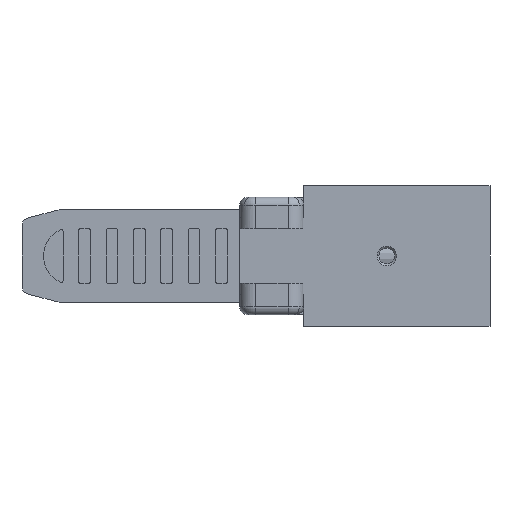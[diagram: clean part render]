
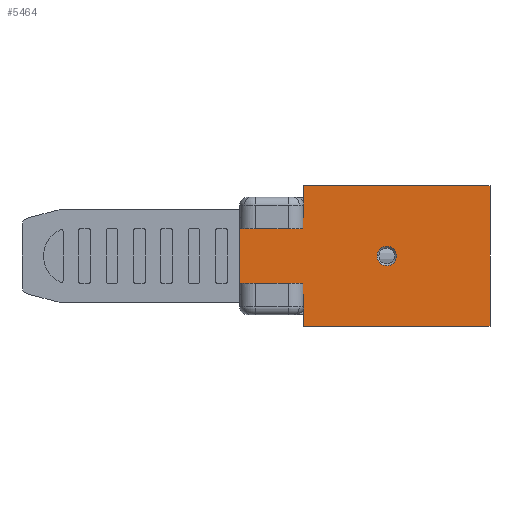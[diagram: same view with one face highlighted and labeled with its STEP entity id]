
A CAD part, front view. The second image highlights one B-rep face of the part: STEP entity #5464.
In plain terms, the highlighted planar face has unit normal (0, -1, 0).
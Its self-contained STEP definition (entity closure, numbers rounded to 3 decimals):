
#78 = CARTESIAN_POINT ( 'NONE',  ( 22.5, -5., -9. ) ) ;
#499 = CARTESIAN_POINT ( 'NONE',  ( -9.5, -5., 9. ) ) ;
#653 = CARTESIAN_POINT ( 'NONE',  ( -1.3, -5., 9. ) ) ;
#754 = VERTEX_POINT ( 'NONE', #6939 ) ;
#793 = ORIENTED_EDGE ( 'NONE', *, *, #6692, .T. ) ;
#824 = EDGE_CURVE ( 'NONE', #5874, #1615, #13155, .T. ) ;
#845 = LINE ( 'NONE', #7675, #11790 ) ;
#1077 = CARTESIAN_POINT ( 'NONE',  ( 22.5, -5., 9. ) ) ;
#1084 = ORIENTED_EDGE ( 'NONE', *, *, #824, .T. ) ;
#1093 = CARTESIAN_POINT ( 'NONE',  ( 22.5, -5., 9. ) ) ;
#1103 = VECTOR ( 'NONE', #10646, 1000. ) ;
#1263 = ORIENTED_EDGE ( 'NONE', *, *, #10964, .F. ) ;
#1266 = CARTESIAN_POINT ( 'NONE',  ( 9.3, -5., 0. ) ) ;
#1278 = VERTEX_POINT ( 'NONE', #11753 ) ;
#1595 = VECTOR ( 'NONE', #10138, 1000. ) ;
#1615 = VERTEX_POINT ( 'NONE', #78 ) ;
#1715 = DIRECTION ( 'NONE',  ( 0., 0., -1. ) ) ;
#2220 = FACE_OUTER_BOUND ( 'NONE', #6037, .T. ) ;
#2321 = VECTOR ( 'NONE', #1715, 1000. ) ;
#2352 = DIRECTION ( 'NONE',  ( 0., 0., -1. ) ) ;
#2527 = CARTESIAN_POINT ( 'NONE',  ( 9.3, -5., 0. ) ) ;
#2637 = ORIENTED_EDGE ( 'NONE', *, *, #10293, .F. ) ;
#2917 = VERTEX_POINT ( 'NONE', #10139 ) ;
#2988 = EDGE_LOOP ( 'NONE', ( #7819, #2637 ) ) ;
#3341 = ORIENTED_EDGE ( 'NONE', *, *, #7930, .T. ) ;
#3372 = ORIENTED_EDGE ( 'NONE', *, *, #11298, .F. ) ;
#3392 = AXIS2_PLACEMENT_3D ( 'NONE', #1266, #8676, #2352 ) ;
#3602 = DIRECTION ( 'NONE',  ( 0., 0., -1. ) ) ;
#3878 = DIRECTION ( 'NONE',  ( 1., 0., 0. ) ) ;
#4280 = LINE ( 'NONE', #1093, #1103 ) ;
#4565 = DIRECTION ( 'NONE',  ( -1., 0., 0. ) ) ;
#4841 = CARTESIAN_POINT ( 'NONE',  ( -1.3, -5., -4.95 ) ) ;
#5098 = VECTOR ( 'NONE', #13653, 1000. ) ;
#5267 = VECTOR ( 'NONE', #5959, 1000. ) ;
#5464 = ADVANCED_FACE ( 'NONE', ( #10340, #2220 ), #7747, .F. ) ;
#5639 = EDGE_CURVE ( 'NONE', #12448, #2917, #5833, .T. ) ;
#5673 = DIRECTION ( 'NONE',  ( 0., 1., 0. ) ) ;
#5833 = LINE ( 'NONE', #499, #11454 ) ;
#5874 = VERTEX_POINT ( 'NONE', #11403 ) ;
#5959 = DIRECTION ( 'NONE',  ( 0., 0., -1. ) ) ;
#6037 = EDGE_LOOP ( 'NONE', ( #10348, #3341, #1084, #1263, #3372, #793, #11915, #8321 ) ) ;
#6083 = CARTESIAN_POINT ( 'NONE',  ( -9.5, -5., 4.95 ) ) ;
#6179 = EDGE_CURVE ( 'NONE', #13196, #2917, #845, .T. ) ;
#6692 = EDGE_CURVE ( 'NONE', #754, #10032, #8099, .T. ) ;
#6873 = EDGE_CURVE ( 'NONE', #12448, #10032, #13569, .T. ) ;
#6939 = CARTESIAN_POINT ( 'NONE',  ( -1.3, -5., 9. ) ) ;
#7093 = CARTESIAN_POINT ( 'NONE',  ( -1.3, -5., 4.95 ) ) ;
#7095 = AXIS2_PLACEMENT_3D ( 'NONE', #12030, #5673, #13085 ) ;
#7675 = CARTESIAN_POINT ( 'NONE',  ( -9.5, -5., -4.95 ) ) ;
#7681 = CARTESIAN_POINT ( 'NONE',  ( 9.3, -5., -1.25 ) ) ;
#7747 = PLANE ( 'NONE',  #7095 ) ;
#7789 = CIRCLE ( 'NONE', #13217, 1.25 ) ;
#7819 = ORIENTED_EDGE ( 'NONE', *, *, #13658, .F. ) ;
#7877 = DIRECTION ( 'NONE',  ( 0., 0., -1. ) ) ;
#7930 = EDGE_CURVE ( 'NONE', #13196, #5874, #13579, .T. ) ;
#8099 = LINE ( 'NONE', #10180, #5267 ) ;
#8321 = ORIENTED_EDGE ( 'NONE', *, *, #5639, .T. ) ;
#8676 = DIRECTION ( 'NONE',  ( 0., -1., 0. ) ) ;
#9066 = CARTESIAN_POINT ( 'NONE',  ( -9.5, -5., 9. ) ) ;
#9922 = DIRECTION ( 'NONE',  ( 0., -1., 0. ) ) ;
#10032 = VERTEX_POINT ( 'NONE', #7093 ) ;
#10138 = DIRECTION ( 'NONE',  ( 1., 0., 0. ) ) ;
#10139 = CARTESIAN_POINT ( 'NONE',  ( -9.5, -5., -4.95 ) ) ;
#10180 = CARTESIAN_POINT ( 'NONE',  ( -1.3, -5., 9. ) ) ;
#10293 = EDGE_CURVE ( 'NONE', #1278, #10507, #10946, .T. ) ;
#10333 = VECTOR ( 'NONE', #3878, 1000. ) ;
#10340 = FACE_BOUND ( 'NONE', #2988, .T. ) ;
#10348 = ORIENTED_EDGE ( 'NONE', *, *, #6179, .F. ) ;
#10507 = VERTEX_POINT ( 'NONE', #7681 ) ;
#10646 = DIRECTION ( 'NONE',  ( 0., 0., -1. ) ) ;
#10946 = CIRCLE ( 'NONE', #3392, 1.25 ) ;
#10964 = EDGE_CURVE ( 'NONE', #11368, #1615, #4280, .T. ) ;
#11298 = EDGE_CURVE ( 'NONE', #754, #11368, #12849, .T. ) ;
#11368 = VERTEX_POINT ( 'NONE', #1077 ) ;
#11403 = CARTESIAN_POINT ( 'NONE',  ( -1.3, -5., -9. ) ) ;
#11420 = CARTESIAN_POINT ( 'NONE',  ( -9.5, -5., 4.95 ) ) ;
#11454 = VECTOR ( 'NONE', #7877, 1000. ) ;
#11753 = CARTESIAN_POINT ( 'NONE',  ( 9.3, -5., 1.25 ) ) ;
#11790 = VECTOR ( 'NONE', #4565, 1000. ) ;
#11915 = ORIENTED_EDGE ( 'NONE', *, *, #6873, .F. ) ;
#12009 = CARTESIAN_POINT ( 'NONE',  ( -9.5, -5., -9. ) ) ;
#12030 = CARTESIAN_POINT ( 'NONE',  ( -9.5, -5., 9. ) ) ;
#12448 = VERTEX_POINT ( 'NONE', #6083 ) ;
#12849 = LINE ( 'NONE', #9066, #1595 ) ;
#13085 = DIRECTION ( 'NONE',  ( 0., 0., 1. ) ) ;
#13155 = LINE ( 'NONE', #12009, #10333 ) ;
#13196 = VERTEX_POINT ( 'NONE', #4841 ) ;
#13217 = AXIS2_PLACEMENT_3D ( 'NONE', #2527, #9922, #3602 ) ;
#13569 = LINE ( 'NONE', #11420, #5098 ) ;
#13579 = LINE ( 'NONE', #653, #2321 ) ;
#13653 = DIRECTION ( 'NONE',  ( 1., 0., 0. ) ) ;
#13658 = EDGE_CURVE ( 'NONE', #10507, #1278, #7789, .T. ) ;
